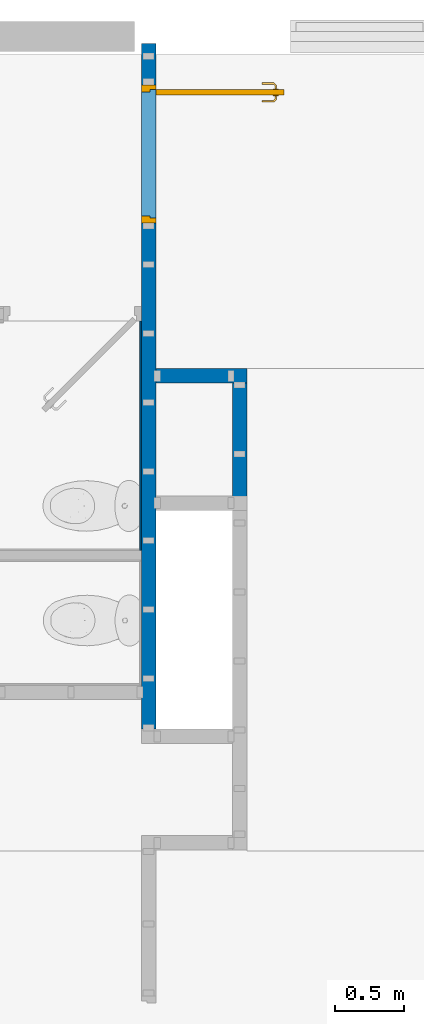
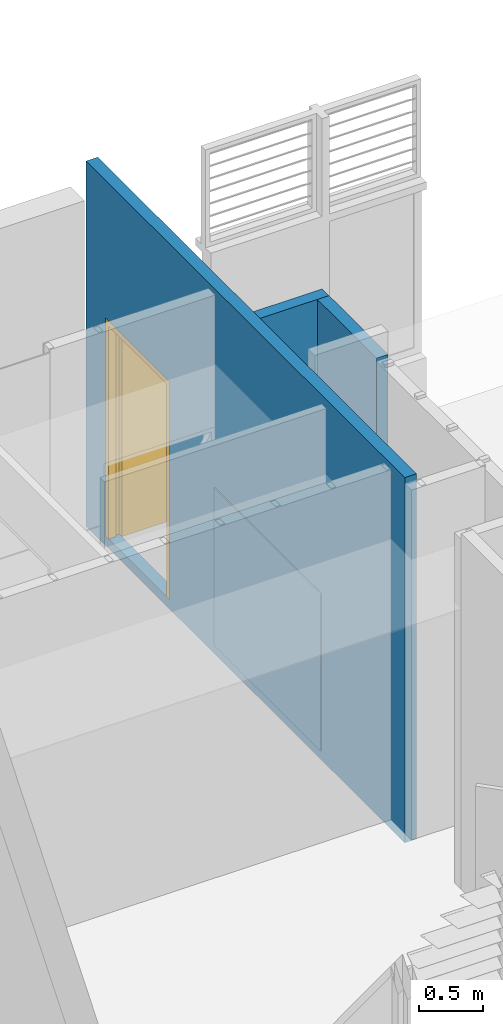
# One storey, part 9 of 20: 4 walls, 1 door, 3 openings.
"""IFC2X3 building model written with IfcOpenShell, lengths in metres."""

from ifc_helpers import new_model, entity, si_unit, converted_unit, derived_unit, direction, frame, frame_2d, origin, place, context, subcontext, project, spatial, rectangle, extrude, faceted_brep, source, transform, mapped, material, layer, layer_set, layer_usage, type_object, type_shapes, element, fill, save


model = new_model("IFC2X3")

# Units and contexts
model_context = context("Model", 3, precision=1e-05, world=origin(), true_north=direction((6.12303176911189e-17, 1.0)))
body_context = subcontext(model_context, "Body", "Model", "MODEL_VIEW")
ifc_project = project(units=[si_unit("LENGTHUNIT", "METRE"), si_unit("AREAUNIT", "SQUARE_METRE"), si_unit("VOLUMEUNIT", "CUBIC_METRE"), converted_unit("PLANEANGLEUNIT", "DEGREE", entity("IfcRatioMeasure", 0.0174532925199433), si_unit("PLANEANGLEUNIT", "RADIAN"), dimensions=[0, 0, 0, 0, 0, 0, 0]), si_unit("MASSUNIT", "GRAM", prefix="KILO"), derived_unit("MASSDENSITYUNIT", [(si_unit("MASSUNIT", "GRAM", prefix="KILO"), 1), (si_unit("LENGTHUNIT", "METRE"), -3)]), si_unit("TIMEUNIT", "SECOND"), si_unit("FREQUENCYUNIT", "HERTZ"), si_unit("THERMODYNAMICTEMPERATUREUNIT", "DEGREE_CELSIUS"), derived_unit("THERMALTRANSMITTANCEUNIT", [(si_unit("MASSUNIT", "GRAM", prefix="KILO"), 1), (si_unit("THERMODYNAMICTEMPERATUREUNIT", "KELVIN"), -1), (si_unit("TIMEUNIT", "SECOND"), -3)]), derived_unit("VOLUMETRICFLOWRATEUNIT", [(si_unit("LENGTHUNIT", "METRE"), 3), (si_unit("TIMEUNIT", "SECOND"), -1)]), si_unit("ELECTRICCURRENTUNIT", "AMPERE"), si_unit("ELECTRICVOLTAGEUNIT", "VOLT"), si_unit("POWERUNIT", "WATT"), si_unit("FORCEUNIT", "NEWTON", prefix="KILO"), si_unit("ILLUMINANCEUNIT", "LUX"), si_unit("LUMINOUSFLUXUNIT", "LUMEN"), si_unit("LUMINOUSINTENSITYUNIT", "CANDELA"), derived_unit("USERDEFINED", [(si_unit("MASSUNIT", "GRAM", prefix="KILO"), -1), (si_unit("LENGTHUNIT", "METRE"), -2), (si_unit("TIMEUNIT", "SECOND"), 3), (si_unit("LUMINOUSFLUXUNIT", "LUMEN"), 1)]), derived_unit("LINEARVELOCITYUNIT", [(si_unit("LENGTHUNIT", "METRE"), 1), (si_unit("TIMEUNIT", "SECOND"), -1)]), si_unit("PRESSUREUNIT", "PASCAL"), derived_unit("USERDEFINED", [(si_unit("LENGTHUNIT", "METRE"), -2), (si_unit("MASSUNIT", "GRAM", prefix="KILO"), 1), (si_unit("TIMEUNIT", "SECOND"), -2)])], contexts=[model_context])

# Site, building, storey
site_placement = place(None, origin())
site = spatial("IfcSite", under=ifc_project, at=site_placement, Name="Surface", CompositionType="ELEMENT")
building_placement = place(site_placement, origin())
building = spatial("IfcBuilding", under=site, at=building_placement, Name="ExPREF", CompositionType="ELEMENT")
storey_placement = place(building_placement, frame((0.0, 0.0, 4.27)))
storey = spatial("IfcBuildingStorey", under=building, at=storey_placement, Name="R+1", CompositionType="ELEMENT", Elevation=4.27)

# Wall, openings, door
ifc_material_1 = material(Name="AA-peinture blanc satiné")
ifc_layer_1 = layer(ifc_material_1, 0.0125)
ifc_material_2 = material(Name="AA-isolant plancher")
ifc_layer_2 = layer(ifc_material_2, 0.08)
ifc_layer_3 = layer(ifc_material_1, 0.0125)
ifc_layer_set_1 = layer_set([ifc_layer_1, ifc_layer_2, ifc_layer_3], Name="Mur de base:A-cloison FC 10.5 cm")
ifc_layer_usage_1 = layer_usage(ifc_layer_set_1, "AXIS2", "NEGATIVE", 0.0525)
wall_type_1 = type_object("IfcWallType", Name="Mur de base:A-cloison FC 10.5 cm", PredefinedType="STANDARD", material=ifc_layer_set_1)
wall_1_placement = place(storey_placement, frame((49.4897436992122, -185.106488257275, -0.0900000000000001), z_axis=(0.0, 0.0, 1.0), x_axis=(0.0, -1.0, 0.0)))
wall_1 = element("IfcWallStandardCase", 1, at=wall_1_placement, inside=storey, type_object=wall_type_1, material=ifc_layer_usage_1, Name="Mur de base:A-cloison FC 10.5 cm", ObjectType="Mur de base:A-cloison FC 10.5 cm", context=body_context, shape_type="SweptSolid", body=[
    extrude(rectangle(XDim=4.96908136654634, YDim=0.104999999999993, at=frame_2d((2.48454068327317, 8.53483950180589e-16), x_axis=(-1.0, 0.0))), origin(), (0.0, 0.0, 1.0), 3.475),
])
opening_1_placement = place(wall_1_placement, frame((2.01249999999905, -1.05249999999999, 0.0899999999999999)))
element("IfcOpeningElement", 2, at=opening_1_placement, cuts=wall_1, Name="Mur de base:A-cloison FC 10.5 cm", ObjectType="Opening", context=body_context, shape_type="SweptSolid", body=[
    extrude(rectangle(XDim=2.075, YDim=0.104999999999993, at=frame_2d((0.0, 0.0), x_axis=(0.0, 1.0))), frame((-0.0524999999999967, 0.0, 1.0375), z_axis=(0.0, 1.0, 0.0), x_axis=(-1.0, 0.0, 0.0)), (0.0, 0.0, 1.0), 0.999999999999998),
])
opening_2_placement = place(wall_1_placement, frame((0.299999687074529, -0.0525000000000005, 0.0900000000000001)))
opening_2 = element("IfcOpeningElement", 3, at=opening_2_placement, cuts=wall_1, Name="Porte intérieur bois:PP (0.93m x 2.04m):1", ObjectType="Opening", context=body_context, shape_type="SweptSolid", body=[
    extrude(rectangle(XDim=2.075, YDim=1.0, at=frame_2d((1.0375, 0.5), x_axis=(1.0, 0.0))), frame((0.0, 0.0, 0.0), z_axis=(0.0, 1.0, 0.0), x_axis=(0.0, 0.0, 1.0)), (0.0, 0.0, 1.0), 0.105),
])
ifc_material_3 = material(Name="AA-Blanc satiné")
door_style = type_object("IfcDoorStyle", Name="PP (0.93m x 2.04m)", ConstructionType="NOTDEFINED", OperationType="SINGLE_SWING_LEFT", ParameterTakesPrecedence=False, Sizeable=False, material=ifc_material_3)
shared_shape = source(origin(), body_context, "Body", "Brep", [
    faceted_brep([(0.919999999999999, -0.872025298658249, 1.00778044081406), (0.919999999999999, -0.876000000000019, 1.007), (0.919999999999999, -0.876000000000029, 0.992999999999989), (0.919999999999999, -0.872025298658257, 0.99221955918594), (0.919999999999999, -0.867974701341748, 0.992219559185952), (0.919999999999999, -0.863999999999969, 0.993000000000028), (0.919999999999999, -0.86399999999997, 1.007), (0.919999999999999, -0.867974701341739, 1.00778044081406), (0.897514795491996, -0.863999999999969, 0.993000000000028), (0.897514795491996, -0.863999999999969, 1.007), (0.895868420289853, -0.867974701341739, 1.00778044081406), (0.882054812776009, -0.854161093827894, 1.00778044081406), (0.8780042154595, -0.855838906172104, 1.00778044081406), (0.894190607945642, -0.872025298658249, 1.00778044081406), (0.892544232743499, -0.876000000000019, 1.007), (0.892544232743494, -0.876000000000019, 0.992999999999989), (0.894190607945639, -0.872025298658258, 0.99221955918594), (0.87800421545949, -0.855838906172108, 0.99221955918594), (0.882054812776, -0.854161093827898, 0.992219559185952), (0.895868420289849, -0.867974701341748, 0.992219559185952), (0.886029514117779, -0.852514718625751, 0.993000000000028), (0.886029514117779, -0.852514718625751, 1.007), (0.87402951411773, -0.857485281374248, 1.007), (0.874029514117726, -0.857485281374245, 0.992999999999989), (0.886029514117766, -0.769954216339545, 0.993000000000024), (0.882054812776, -0.769954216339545, 0.992219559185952), (0.87800421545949, -0.769954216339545, 0.99221955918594), (0.874029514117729, -0.769954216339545, 0.992999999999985), (0.87402951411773, -0.769954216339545, 1.007), (0.878004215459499, -0.769954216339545, 1.00778044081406), (0.882054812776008, -0.769954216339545, 1.00778044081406), (0.886029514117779, -0.769954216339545, 1.007), (0.886029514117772, -0.811234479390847, 0.993000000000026), (0.886029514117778, -0.811234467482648, 1.007), (0.880029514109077, -0.812057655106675, 1.0078786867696), (0.87402951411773, -0.81755479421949, 1.007), (0.874029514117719, -0.8175547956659, 0.992999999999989), (0.880029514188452, -0.812057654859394, 0.992121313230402)], [[[0, 1, 2, 3, 4, 5, 6, 7]], [[6, 5, 8, 9]], [[9, 10, 7, 6]], [[10, 11, 12, 13, 0, 7]], [[13, 14, 1, 0]], [[2, 1, 14, 15]], [[15, 16, 3, 2]], [[16, 17, 18, 19, 4, 3]], [[19, 8, 5, 4]], [[9, 8, 20, 21]], [[21, 11, 10, 9]], [[12, 22, 14, 13]], [[15, 14, 22, 23]], [[23, 17, 16, 15]], [[18, 20, 8, 19]], [[24, 25, 26, 27, 28, 29, 30, 31]], [[21, 20, 32, 24, 31, 33]], [[33, 30, 34]], [[35, 34, 29]], [[21, 33, 11]], [[33, 31, 30]], [[28, 35, 29]], [[22, 12, 35]], [[35, 12, 34]], [[12, 11, 34]], [[11, 33, 34]], [[29, 34, 30]], [[22, 35, 28, 27, 36, 23]], [[36, 26, 37]], [[27, 26, 36]], [[17, 23, 36]], [[37, 32, 18]], [[20, 18, 32]], [[32, 25, 24]], [[26, 25, 37]], [[25, 32, 37]], [[17, 36, 37]], [[17, 37, 18]]]),
    faceted_brep([(0.969999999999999, -0.872025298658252, 1.00778044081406), (0.969999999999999, -0.867974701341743, 1.00778044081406), (0.969999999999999, -0.863999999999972, 1.00699999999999), (0.969999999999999, -0.863999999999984, 0.993000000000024), (0.969999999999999, -0.867974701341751, 0.992219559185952), (0.969999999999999, -0.87202529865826, 0.99221955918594), (0.969999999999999, -0.876000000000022, 0.992999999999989), (0.969999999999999, -0.876000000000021, 1.007), (0.997650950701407, -0.876000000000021, 1.007), (0.996004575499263, -0.872025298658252, 1.00778044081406), (1.01205345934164, -0.855976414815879, 1.00778044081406), (1.00800286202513, -0.854298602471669, 1.00778044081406), (0.994326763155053, -0.867974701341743, 1.00778044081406), (0.992680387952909, -0.863999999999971, 1.007), (0.992680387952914, -0.863999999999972, 0.993000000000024), (0.994326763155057, -0.867974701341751, 0.992219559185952), (1.00800286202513, -0.854298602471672, 0.992219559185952), (1.01205345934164, -0.855976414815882, 0.99221955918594), (0.996004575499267, -0.87202529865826, 0.99221955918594), (0.997650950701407, -0.876000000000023, 0.992999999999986), (1.0160281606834, -0.857622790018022, 1.007), (1.00402816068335, -0.852652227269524, 1.007), (1.00402816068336, -0.852652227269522, 0.993000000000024), (1.01602816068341, -0.857622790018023, 0.992999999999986), (1.01602816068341, -0.769981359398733, 0.992999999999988), (1.01205345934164, -0.769981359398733, 0.99221955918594), (1.00800286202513, -0.769981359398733, 0.992219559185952), (1.00402816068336, -0.769981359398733, 0.993000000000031), (1.00402816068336, -0.769981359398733, 1.007), (1.00800286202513, -0.769981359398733, 1.00778044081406), (1.01205345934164, -0.769981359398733, 1.00778044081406), (1.01602816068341, -0.769981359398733, 1.00699999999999), (1.01602816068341, -0.817692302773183, 1.007), (1.01002816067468, -0.812139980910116, 1.0078786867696), (1.00402816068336, -0.811316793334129, 1.007), (1.00402816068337, -0.811316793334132, 0.993000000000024), (1.01002816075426, -0.812139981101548, 0.992121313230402), (1.01602816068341, -0.817692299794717, 0.992999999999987)], [[[0, 1, 2, 3, 4, 5, 6, 7]], [[8, 9, 0, 7]], [[9, 10, 11, 12, 1, 0]], [[12, 13, 2, 1]], [[3, 2, 13, 14]], [[14, 15, 4, 3]], [[15, 16, 17, 18, 5, 4]], [[18, 19, 6, 5]], [[7, 6, 19, 8]], [[20, 10, 9, 8]], [[11, 21, 13, 12]], [[14, 13, 21, 22]], [[22, 16, 15, 14]], [[17, 23, 19, 18]], [[8, 19, 23, 20]], [[24, 25, 26, 27, 28, 29, 30, 31]], [[32, 30, 33]], [[31, 30, 32]], [[10, 20, 32]], [[33, 34, 11]], [[21, 11, 34]], [[34, 29, 28]], [[30, 29, 33]], [[29, 34, 33]], [[10, 32, 33]], [[10, 33, 11]], [[22, 21, 34, 28, 27, 35]], [[35, 26, 36]], [[37, 36, 25]], [[22, 35, 16]], [[35, 27, 26]], [[24, 37, 25]], [[23, 17, 37]], [[37, 17, 36]], [[17, 16, 36]], [[16, 35, 36]], [[25, 36, 26]], [[20, 23, 37, 24, 31, 32]]]),
    faceted_brep([(0.924999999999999, -0.859647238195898, 0.866003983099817), (0.924999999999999, -0.849999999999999, 0.870000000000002), (0.924999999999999, -0.850000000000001, 1.08), (0.924999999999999, -0.8596472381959, 1.08399601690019), (0.924999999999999, -0.870000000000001, 1.08535898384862), (0.924999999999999, -0.880352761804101, 1.08399601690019), (0.924999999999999, -0.89, 1.08), (0.924999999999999, -0.889999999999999, 0.870000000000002), (0.924999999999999, -0.8803527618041, 0.866003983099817), (0.924999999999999, -0.869999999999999, 0.86464101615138), (0.919999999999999, -0.8596472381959, 1.08399601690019), (0.92, -0.850000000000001, 1.08), (0.92, -0.849999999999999, 0.870000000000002), (0.919999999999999, -0.859647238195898, 0.866003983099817), (0.919999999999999, -0.869999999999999, 0.86464101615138), (0.919999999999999, -0.8803527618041, 0.866003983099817), (0.919999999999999, -0.89, 0.870000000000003), (0.919999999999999, -0.89, 1.08), (0.919999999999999, -0.880352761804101, 1.08399601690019), (0.919999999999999, -0.870000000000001, 1.08535898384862)], [[[0, 1, 2, 3, 4, 5, 6, 7, 8, 9]], [[10, 11, 12, 13, 14, 15, 16, 17, 18, 19]], [[11, 10, 3, 2]], [[3, 10, 19, 4]], [[19, 18, 5, 4]], [[18, 17, 6, 5]], [[7, 6, 17, 16]], [[16, 15, 8, 7]], [[8, 15, 14, 9]], [[14, 13, 0, 9]], [[13, 12, 1, 0]], [[2, 1, 12, 11]]]),
    faceted_brep([(0.969999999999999, -0.859647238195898, 0.866003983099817), (0.969999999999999, -0.849999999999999, 0.870000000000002), (0.969999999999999, -0.850000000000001, 1.08), (0.969999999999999, -0.8596472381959, 1.08399601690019), (0.969999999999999, -0.87, 1.08535898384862), (0.969999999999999, -0.880352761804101, 1.08399601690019), (0.969999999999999, -0.89, 1.08), (0.969999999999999, -0.889999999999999, 0.870000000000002), (0.969999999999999, -0.8803527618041, 0.866003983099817), (0.969999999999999, -0.869999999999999, 0.86464101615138), (0.964999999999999, -0.8596472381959, 1.08399601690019), (0.965, -0.850000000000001, 1.08), (0.965, -0.849999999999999, 0.870000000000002), (0.964999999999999, -0.859647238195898, 0.866003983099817), (0.964999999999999, -0.869999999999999, 0.86464101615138), (0.964999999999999, -0.8803527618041, 0.866003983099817), (0.964999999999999, -0.89, 0.870000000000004), (0.964999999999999, -0.89, 1.08), (0.964999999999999, -0.880352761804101, 1.08399601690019), (0.964999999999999, -0.87, 1.08535898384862)], [[[0, 1, 2, 3, 4, 5, 6, 7, 8, 9]], [[10, 11, 12, 13, 14, 15, 16, 17, 18, 19]], [[16, 15, 8, 7]], [[8, 15, 14, 9]], [[14, 13, 0, 9]], [[13, 12, 1, 0]], [[2, 1, 12, 11]], [[11, 10, 3, 2]], [[3, 10, 19, 4]], [[19, 18, 5, 4]], [[18, 17, 6, 5]], [[7, 6, 17, 16]]]),
    faceted_brep([(0.924999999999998, -0.93, 2.04), (0.924999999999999, 0.0, 2.04), (0.924999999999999, 0.0, 0.0), (0.924999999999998, -0.93, 0.0), (0.964999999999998, -0.93, 2.04), (0.964999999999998, -0.93, 0.0), (0.965, 0.0, 0.0), (0.965, 0.0, 2.04)], [[[0, 1, 2, 3]], [[4, 5, 6, 7]], [[1, 0, 4, 7]], [[2, 1, 7, 6]], [[3, 2, 6, 5]], [[0, 3, 5, 4]]]),
    faceted_brep([(0.0, 0.0, 0.0), (0.0, 0.105000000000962, 0.0), (0.0499999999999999, 0.105000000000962, 0.0), (0.0499999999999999, 0.0400000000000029, 0.0), (0.0349999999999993, 0.0400000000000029, 0.0), (0.0349999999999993, 0.0, 0.0), (0.0, 0.0, 2.07500000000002), (0.0, 0.105000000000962, 2.07500000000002), (1.0, 0.105000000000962, 2.07500000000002), (1.0, 0.105000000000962, 0.0), (0.95, 0.105000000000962, 0.0), (0.95, 0.105000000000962, 2.025), (0.0500000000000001, 0.105000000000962, 2.025), (0.05, 0.0400000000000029, 2.025), (0.95, 0.0400000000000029, 2.025), (0.95, 0.0400000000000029, 0.0), (0.965, 0.0400000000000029, 0.0), (0.965, 0.0400000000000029, 2.04), (0.0349999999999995, 0.0400000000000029, 2.04), (0.0349999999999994, 0.0, 2.04), (0.965, 0.0, 2.04), (0.965, 0.0, 0.0), (1.0, 0.0, 0.0), (1.0, 0.0, 2.07500000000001)], [[[0, 1, 2, 3, 4, 5]], [[1, 0, 6, 7]], [[2, 1, 7, 8, 9, 10, 11, 12]], [[3, 2, 12, 13]], [[4, 3, 13, 14, 15, 16, 17, 18]], [[5, 4, 18, 19]], [[0, 5, 19, 20, 21, 22, 23, 6]], [[8, 23, 22, 9]], [[22, 21, 16, 15, 10, 9]], [[14, 11, 10, 15]], [[20, 17, 16, 21]], [[7, 6, 23, 8]], [[13, 12, 11, 14]], [[19, 18, 17, 20]]]),
])
type_shapes(door_style, [shared_shape])
door_placement = place(opening_2_placement, frame((1.0, 0.104999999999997, 0.0), z_axis=(0.0, 0.0, 1.0), x_axis=(-1.0, 0.0, 0.0)))
door = element("IfcDoor", 4, at=door_placement, inside=storey, type_object=door_style, material=ifc_material_3, Name="Porte intérieur bois:PP (0.93m x 2.04m)", ObjectType="PP (0.93m x 2.04m)", OverallHeight=2.075, OverallWidth=1.00000000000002, context=body_context, shape_type="MappedRepresentation", body=[
    mapped(shared_shape, transform((0.0, 0.0, 0.0), scale=1.0)),
])
fill(opening_2, door)

# Walls
ifc_layer_usage_2 = layer_usage(ifc_layer_set_1, "AXIS2", "NEGATIVE", 0.0525)
wall_2_placement = place(storey_placement, frame((49.5422436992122, -187.516069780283, 0.0)))
element("IfcWallStandardCase", 5, at=wall_2_placement, inside=storey, type_object=wall_type_1, material=ifc_layer_usage_2, Name="Mur de base:A-cloison FC 10.5 cm", ObjectType="Mur de base:A-cloison FC 10.5 cm", context=body_context, shape_type="SweptSolid", body=[
    extrude(rectangle(XDim=0.660000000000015, YDim=0.104999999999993, at=frame_2d((0.330000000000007, 0.0), x_axis=(-1.0, 0.0))), origin(), (0.0, 0.0, 1.0), 3.33),
])
ifc_layer_usage_3 = layer_usage(ifc_layer_set_1, "AXIS2", "NEGATIVE", 0.0525)
wall_3_placement = place(storey_placement, frame((50.1497436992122, -187.568569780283, 0.0), z_axis=(0.0, 0.0, 1.0), x_axis=(0.0, -1.0, 0.0)))
element("IfcWallStandardCase", 6, at=wall_3_placement, inside=storey, type_object=wall_type_1, material=ifc_layer_usage_3, Name="Mur de base:A-cloison FC 10.5 cm", ObjectType="Mur de base:A-cloison FC 10.5 cm", context=body_context, shape_type="SweptSolid", body=[
    extrude(rectangle(XDim=0.922000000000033, YDim=0.104999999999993, at=frame_2d((0.461000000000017, 0.0), x_axis=(-1.0, 0.0))), origin(), (0.0, 0.0, 1.0), 3.33),
])

# Wall, opening
ifc_material_4 = material(Name="AA-sol carrelage")
ifc_layer_4 = layer(ifc_material_4, 0.01)
ifc_layer_set_2 = layer_set([ifc_layer_4], Name="Mur de base:A-carrelage")
ifc_layer_usage_4 = layer_usage(ifc_layer_set_2, "AXIS2", "NEGATIVE", 0.005)
wall_type_2 = type_object("IfcWallType", Name="Mur de base:A-carrelage", PredefinedType="STANDARD", material=ifc_layer_set_2)
wall_4_placement = place(storey_placement, frame((49.4322436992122, -187.118988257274, 0.0), z_axis=(0.0, 0.0, 1.0), x_axis=(0.0, -1.0, 0.0)))
wall_4 = element("IfcWallStandardCase", 7, at=wall_4_placement, inside=storey, type_object=wall_type_2, material=ifc_layer_usage_4, Name="Mur de base:A-carrelage", ObjectType="Mur de base:A-carrelage", context=body_context, shape_type="SweptSolid", body=[
    extrude(rectangle(XDim=1.66108136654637, YDim=0.00999999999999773, at=frame_2d((0.830540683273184, 0.0), x_axis=(-1.0, 0.0))), origin(), (0.0, 0.0, 1.0), 1.5),
])
opening_3_placement = place(wall_4_placement, frame((0.0, -0.994999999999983, 0.0)))
element("IfcOpeningElement", 8, at=opening_3_placement, cuts=wall_4, Name="Mur de base:A-carrelage", ObjectType="Opening", context=body_context, shape_type="SweptSolid", body=[
    extrude(rectangle(XDim=2.075, YDim=0.104999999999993, at=frame_2d((0.0, 0.0), x_axis=(0.0, 1.0))), frame((-0.0524999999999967, 0.0, 1.0375), z_axis=(0.0, 1.0, 0.0), x_axis=(-1.0, 0.0, 0.0)), (0.0, 0.0, 1.0), 0.999999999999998),
])

save(model, "model.ifc")
